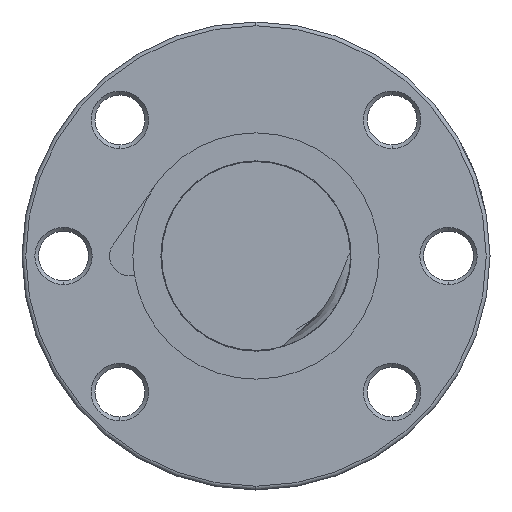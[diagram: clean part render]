
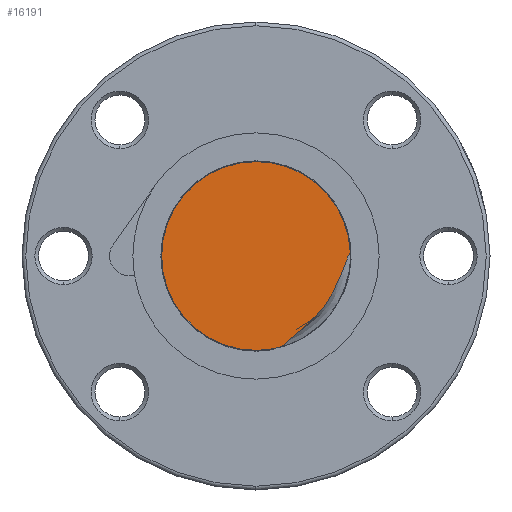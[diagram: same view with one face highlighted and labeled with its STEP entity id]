
A CAD part, left-side view. The second image highlights one B-rep face of the part: STEP entity #16191.
In plain terms, the highlighted planar face has unit normal (-1, 0, 0).
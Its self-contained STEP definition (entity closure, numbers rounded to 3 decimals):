
#15907 = VERTEX_POINT ( 'NONE', #18083 ) ;
#15987 = EDGE_CURVE ( 'NONE', #15907, #15988, #18717, .T. ) ;
#15988 = VERTEX_POINT ( 'NONE', #18764 ) ;
#16077 = EDGE_CURVE ( 'NONE', #15988, #16166, #19330, .T. ) ;
#16166 = VERTEX_POINT ( 'NONE', #19881 ) ;
#16191 = ADVANCED_FACE ( 'NONE', ( #20066 ), #20065, .F. ) ;
#16192 = EDGE_LOOP ( 'NONE', ( #16193, #16194, #16196, #16197 ) ) ;
#16193 = ORIENTED_EDGE ( 'NONE', *, *, #16289, .F. ) ;
#16194 = ORIENTED_EDGE ( 'NONE', *, *, #16195, .T. ) ;
#16195 = EDGE_CURVE ( 'NONE', #16290, #16166, #20171, .T. ) ;
#16196 = ORIENTED_EDGE ( 'NONE', *, *, #16077, .F. ) ;
#16197 = ORIENTED_EDGE ( 'NONE', *, *, #15987, .F. ) ;
#16289 = EDGE_CURVE ( 'NONE', #16290, #15907, #20614, .T. ) ;
#16290 = VERTEX_POINT ( 'NONE', #20615 ) ;
#18083 = CARTESIAN_POINT ( 'NONE',  ( -156., 0., -12.5 ) ) ;
#18716 = AXIS2_PLACEMENT_3D ( 'NONE', #18721, #18766, #18765 ) ;
#18717 = CIRCLE ( 'NONE', #18716, 12.5 ) ;
#18721 = CARTESIAN_POINT ( 'NONE',  ( -156., 0., 0. ) ) ;
#18764 = CARTESIAN_POINT ( 'NONE',  ( -156., 0., 12.5 ) ) ;
#18765 = DIRECTION ( 'NONE',  ( 0., 1., 0. ) ) ;
#18766 = DIRECTION ( 'NONE',  ( 1., 0., 0. ) ) ;
#19326 = DIRECTION ( 'NONE',  ( 0., 1., 0. ) ) ;
#19327 = DIRECTION ( 'NONE',  ( 1., 0., 0. ) ) ;
#19328 = CARTESIAN_POINT ( 'NONE',  ( -156., 0., 0. ) ) ;
#19329 = AXIS2_PLACEMENT_3D ( 'NONE', #19328, #19327, #19326 ) ;
#19330 = CIRCLE ( 'NONE', #19329, 12.5 ) ;
#19881 = CARTESIAN_POINT ( 'NONE',  ( -156., -12.492, 0.453 ) ) ;
#20061 = DIRECTION ( 'NONE',  ( 0., 0., -1. ) ) ;
#20062 = DIRECTION ( 'NONE',  ( 1., 0., 0. ) ) ;
#20063 = CARTESIAN_POINT ( 'NONE',  ( -156., 0., 0. ) ) ;
#20064 = AXIS2_PLACEMENT_3D ( 'NONE', #20063, #20062, #20061 ) ;
#20065 = PLANE ( 'NONE',  #20064 ) ;
#20066 = FACE_OUTER_BOUND ( 'NONE', #16192, .T. ) ;
#20171 = B_SPLINE_CURVE_WITH_KNOTS ( 'NONE', 3,
 ( #20176, #20175, #20174, #20370, #20369, #20368, #20367, #20366, #20365, #20364, #20363, #20362, #20361, #20360, #20359, #20358, #20357, #20356, #20355, #20354, #20353, #20352, #20351, #20350, #20349, #20348, #20347, #20346, #20345, #20344 ),
 .UNSPECIFIED., .F., .F.,
 ( 4, 2, 2, 2, 2, 2, 2, 2, 2, 2, 2, 2, 2, 2, 4 ),
 ( 0.001, 0.001, 0.001, 0.002, 0.003, 0.005, 0.007, 0.009, 0.011, 0.013, 0.015, 0.016, 0.016, 0.017, 0.017 ),
 .UNSPECIFIED. ) ;
#20174 = CARTESIAN_POINT ( 'NONE',  ( -156., -3.521, -11.882 ) ) ;
#20175 = CARTESIAN_POINT ( 'NONE',  ( -156., -3.47, -11.948 ) ) ;
#20176 = CARTESIAN_POINT ( 'NONE',  ( -156., -3.43, -12.02 ) ) ;
#20344 = CARTESIAN_POINT ( 'NONE',  ( -156., -12.492, 0.453 ) ) ;
#20345 = CARTESIAN_POINT ( 'NONE',  ( -156., -12.436, 0.393 ) ) ;
#20346 = CARTESIAN_POINT ( 'NONE',  ( -156., -12.389, 0.325 ) ) ;
#20347 = CARTESIAN_POINT ( 'NONE',  ( -156., -12.303, 0.185 ) ) ;
#20348 = CARTESIAN_POINT ( 'NONE',  ( -156., -12.264, 0.113 ) ) ;
#20349 = CARTESIAN_POINT ( 'NONE',  ( -156., -12.154, -0.108 ) ) ;
#20350 = CARTESIAN_POINT ( 'NONE',  ( -156., -12.091, -0.26 ) ) ;
#20351 = CARTESIAN_POINT ( 'NONE',  ( -156., -11.909, -0.718 ) ) ;
#20352 = CARTESIAN_POINT ( 'NONE',  ( -156., -11.8, -1.028 ) ) ;
#20353 = CARTESIAN_POINT ( 'NONE',  ( -156., -11.469, -1.957 ) ) ;
#20354 = CARTESIAN_POINT ( 'NONE',  ( -156., -11.243, -2.574 ) ) ;
#20355 = CARTESIAN_POINT ( 'NONE',  ( -156., -10.728, -3.781 ) ) ;
#20356 = CARTESIAN_POINT ( 'NONE',  ( -156., -10.44, -4.375 ) ) ;
#20357 = CARTESIAN_POINT ( 'NONE',  ( -156., -9.801, -5.518 ) ) ;
#20358 = CARTESIAN_POINT ( 'NONE',  ( -156., -9.45, -6.067 ) ) ;
#20359 = CARTESIAN_POINT ( 'NONE',  ( -156., -8.687, -7.118 ) ) ;
#20360 = CARTESIAN_POINT ( 'NONE',  ( -156., -8.274, -7.621 ) ) ;
#20361 = CARTESIAN_POINT ( 'NONE',  ( -156., -7.385, -8.579 ) ) ;
#20362 = CARTESIAN_POINT ( 'NONE',  ( -156., -6.909, -9.036 ) ) ;
#20363 = CARTESIAN_POINT ( 'NONE',  ( -156., -5.919, -9.898 ) ) ;
#20364 = CARTESIAN_POINT ( 'NONE',  ( -156., -5.404, -10.304 ) ) ;
#20365 = CARTESIAN_POINT ( 'NONE',  ( -156., -4.624, -10.906 ) ) ;
#20366 = CARTESIAN_POINT ( 'NONE',  ( -156., -4.363, -11.105 ) ) ;
#20367 = CARTESIAN_POINT ( 'NONE',  ( -156., -3.983, -11.419 ) ) ;
#20368 = CARTESIAN_POINT ( 'NONE',  ( -156., -3.859, -11.527 ) ) ;
#20369 = CARTESIAN_POINT ( 'NONE',  ( -156., -3.684, -11.698 ) ) ;
#20370 = CARTESIAN_POINT ( 'NONE',  ( -156., -3.627, -11.757 ) ) ;
#20610 = DIRECTION ( 'NONE',  ( 0., 1., 0. ) ) ;
#20611 = DIRECTION ( 'NONE',  ( 1., 0., 0. ) ) ;
#20612 = CARTESIAN_POINT ( 'NONE',  ( -156., 0., 0. ) ) ;
#20613 = AXIS2_PLACEMENT_3D ( 'NONE', #20612, #20611, #20610 ) ;
#20614 = CIRCLE ( 'NONE', #20613, 12.5 ) ;
#20615 = CARTESIAN_POINT ( 'NONE',  ( -156., -3.43, -12.02 ) ) ;
